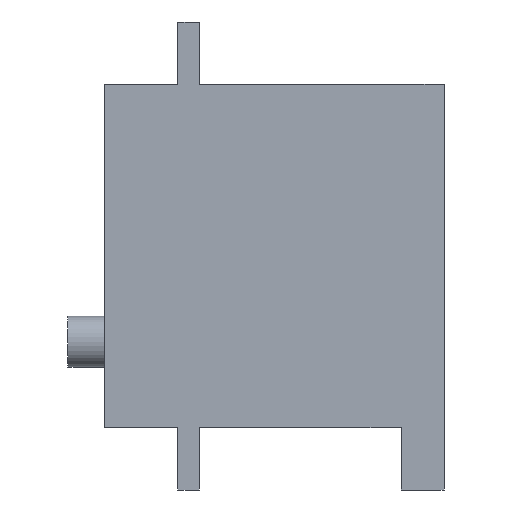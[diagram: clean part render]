
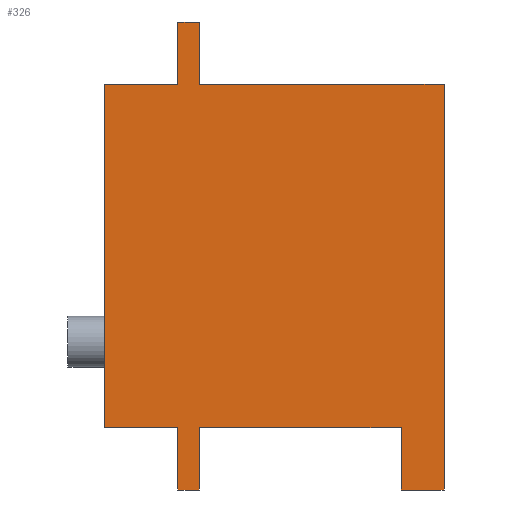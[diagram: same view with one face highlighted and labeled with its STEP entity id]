
A CAD part, left-side view. The second image highlights one B-rep face of the part: STEP entity #326.
In plain terms, the highlighted planar face has unit normal (-1, 0, 0).
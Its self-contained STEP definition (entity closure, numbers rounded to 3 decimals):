
#17=PLANE('',#369);
#35=FACE_OUTER_BOUND('',#53,.T.);
#53=EDGE_LOOP('',(#238,#239,#240,#241,#242,#243,#244,#245,#246,#247,#248,
#249,#250,#251));
#71=LINE('',#481,#114);
#72=LINE('',#483,#115);
#73=LINE('',#485,#116);
#74=LINE('',#487,#117);
#75=LINE('',#489,#118);
#76=LINE('',#491,#119);
#77=LINE('',#493,#120);
#78=LINE('',#495,#121);
#79=LINE('',#497,#122);
#80=LINE('',#499,#123);
#81=LINE('',#501,#124);
#82=LINE('',#503,#125);
#83=LINE('',#505,#126);
#84=LINE('',#506,#127);
#114=VECTOR('',#398,10.);
#115=VECTOR('',#399,10.);
#116=VECTOR('',#400,10.);
#117=VECTOR('',#401,10.);
#118=VECTOR('',#402,10.);
#119=VECTOR('',#403,10.);
#120=VECTOR('',#404,10.);
#121=VECTOR('',#405,10.);
#122=VECTOR('',#406,10.);
#123=VECTOR('',#407,10.);
#124=VECTOR('',#408,10.);
#125=VECTOR('',#409,10.);
#126=VECTOR('',#410,10.);
#127=VECTOR('',#411,10.);
#160=VERTEX_POINT('',#479);
#161=VERTEX_POINT('',#480);
#162=VERTEX_POINT('',#482);
#163=VERTEX_POINT('',#484);
#164=VERTEX_POINT('',#486);
#165=VERTEX_POINT('',#488);
#166=VERTEX_POINT('',#490);
#167=VERTEX_POINT('',#492);
#168=VERTEX_POINT('',#494);
#169=VERTEX_POINT('',#496);
#170=VERTEX_POINT('',#498);
#171=VERTEX_POINT('',#500);
#172=VERTEX_POINT('',#502);
#173=VERTEX_POINT('',#504);
#191=EDGE_CURVE('',#160,#161,#71,.T.);
#192=EDGE_CURVE('',#161,#162,#72,.T.);
#193=EDGE_CURVE('',#162,#163,#73,.T.);
#194=EDGE_CURVE('',#163,#164,#74,.T.);
#195=EDGE_CURVE('',#164,#165,#75,.T.);
#196=EDGE_CURVE('',#165,#166,#76,.T.);
#197=EDGE_CURVE('',#166,#167,#77,.T.);
#198=EDGE_CURVE('',#167,#168,#78,.T.);
#199=EDGE_CURVE('',#168,#169,#79,.T.);
#200=EDGE_CURVE('',#169,#170,#80,.T.);
#201=EDGE_CURVE('',#170,#171,#81,.T.);
#202=EDGE_CURVE('',#171,#172,#82,.T.);
#203=EDGE_CURVE('',#172,#173,#83,.T.);
#204=EDGE_CURVE('',#173,#160,#84,.T.);
#238=ORIENTED_EDGE('',*,*,#191,.T.);
#239=ORIENTED_EDGE('',*,*,#192,.T.);
#240=ORIENTED_EDGE('',*,*,#193,.T.);
#241=ORIENTED_EDGE('',*,*,#194,.T.);
#242=ORIENTED_EDGE('',*,*,#195,.T.);
#243=ORIENTED_EDGE('',*,*,#196,.T.);
#244=ORIENTED_EDGE('',*,*,#197,.T.);
#245=ORIENTED_EDGE('',*,*,#198,.T.);
#246=ORIENTED_EDGE('',*,*,#199,.T.);
#247=ORIENTED_EDGE('',*,*,#200,.T.);
#248=ORIENTED_EDGE('',*,*,#201,.T.);
#249=ORIENTED_EDGE('',*,*,#202,.T.);
#250=ORIENTED_EDGE('',*,*,#203,.T.);
#251=ORIENTED_EDGE('',*,*,#204,.T.);
#326=ADVANCED_FACE('',(#35),#17,.T.);
#369=AXIS2_PLACEMENT_3D('',#478,#396,#397);
#396=DIRECTION('center_axis',(-1.,0.,0.));
#397=DIRECTION('ref_axis',(0.,0.,1.));
#398=DIRECTION('',(0.,-1.,0.));
#399=DIRECTION('',(0.,0.,1.));
#400=DIRECTION('',(0.,1.,0.));
#401=DIRECTION('',(0.,0.,1.));
#402=DIRECTION('',(0.,1.,0.));
#403=DIRECTION('',(0.,0.,-1.));
#404=DIRECTION('',(0.,1.,0.));
#405=DIRECTION('',(0.,0.,-1.));
#406=DIRECTION('',(0.,-1.,0.));
#407=DIRECTION('',(0.,0.,-1.));
#408=DIRECTION('',(0.,-1.,0.));
#409=DIRECTION('',(0.,0.,1.));
#410=DIRECTION('',(0.,-1.,0.));
#411=DIRECTION('',(0.,0.,-1.));
#478=CARTESIAN_POINT('Origin',(-10.075,19.775,10.));
#479=CARTESIAN_POINT('',(-10.075,5.,-17.25));
#480=CARTESIAN_POINT('',(-10.075,0.,-17.25));
#481=CARTESIAN_POINT('',(-10.075,0.,-17.25));
#482=CARTESIAN_POINT('',(-10.075,0.,30.));
#483=CARTESIAN_POINT('',(-10.075,0.,30.));
#484=CARTESIAN_POINT('',(-10.075,28.5,30.));
#485=CARTESIAN_POINT('',(-10.075,28.5,30.));
#486=CARTESIAN_POINT('',(-10.075,28.5,37.25));
#487=CARTESIAN_POINT('',(-10.075,28.5,37.25));
#488=CARTESIAN_POINT('',(-10.075,31.,37.25));
#489=CARTESIAN_POINT('',(-10.075,31.,37.25));
#490=CARTESIAN_POINT('',(-10.075,31.,30.));
#491=CARTESIAN_POINT('',(-10.075,31.,30.));
#492=CARTESIAN_POINT('',(-10.075,39.55,30.));
#493=CARTESIAN_POINT('',(-10.075,39.55,30.));
#494=CARTESIAN_POINT('',(-10.075,39.55,-10.));
#495=CARTESIAN_POINT('',(-10.075,39.55,-10.));
#496=CARTESIAN_POINT('',(-10.075,31.,-10.));
#497=CARTESIAN_POINT('',(-10.075,31.,-10.));
#498=CARTESIAN_POINT('',(-10.075,31.,-17.25));
#499=CARTESIAN_POINT('',(-10.075,31.,-17.25));
#500=CARTESIAN_POINT('',(-10.075,28.5,-17.25));
#501=CARTESIAN_POINT('',(-10.075,28.5,-17.25));
#502=CARTESIAN_POINT('',(-10.075,28.5,-10.));
#503=CARTESIAN_POINT('',(-10.075,28.5,-10.));
#504=CARTESIAN_POINT('',(-10.075,5.,-10.));
#505=CARTESIAN_POINT('',(-10.075,5.,-10.));
#506=CARTESIAN_POINT('',(-10.075,5.,-17.25));
